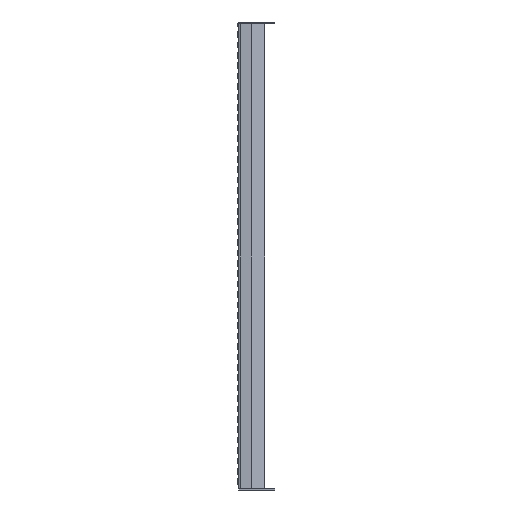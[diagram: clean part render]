
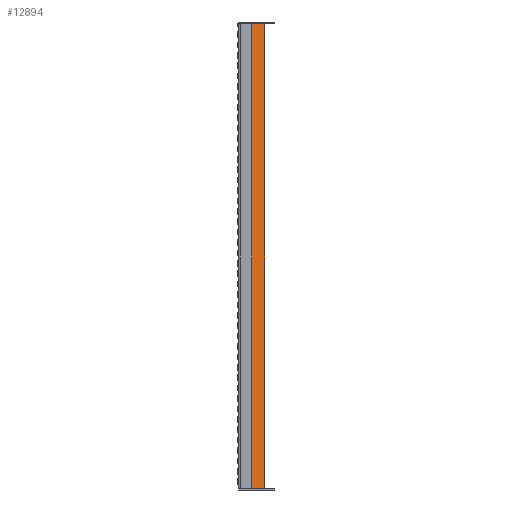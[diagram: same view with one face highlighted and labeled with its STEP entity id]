
A CAD part, left-side view. The second image highlights one B-rep face of the part: STEP entity #12894.
In plain terms, the highlighted planar face has unit normal (-0.94, -0.342, 0).
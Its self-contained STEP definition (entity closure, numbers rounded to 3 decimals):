
#1899=FACE_OUTER_BOUND('',#2936,.T.);
#2936=EDGE_LOOP('',(#11037,#11038,#11039,#11040));
#3891=LINE('',#24384,#5095);
#3910=LINE('',#24431,#5114);
#3912=LINE('',#24437,#5116);
#3916=LINE('',#24444,#5120);
#5095=VECTOR('',#17255,10.);
#5114=VECTOR('',#17298,10.);
#5116=VECTOR('',#17304,10.);
#5120=VECTOR('',#17312,10.);
#6408=VERTEX_POINT('',#24381);
#6409=VERTEX_POINT('',#24383);
#6425=VERTEX_POINT('',#24430);
#6427=VERTEX_POINT('',#24436);
#7980=EDGE_CURVE('',#6409,#6408,#3891,.T.);
#8004=EDGE_CURVE('',#6408,#6425,#3910,.T.);
#8007=EDGE_CURVE('',#6427,#6409,#3912,.T.);
#8011=EDGE_CURVE('',#6425,#6427,#3916,.T.);
#11037=ORIENTED_EDGE('',*,*,#8004,.T.);
#11038=ORIENTED_EDGE('',*,*,#8011,.T.);
#11039=ORIENTED_EDGE('',*,*,#8007,.T.);
#11040=ORIENTED_EDGE('',*,*,#7980,.T.);
#12045=PLANE('',#14234);
#12894=ADVANCED_FACE('',(#1899),#12045,.T.);
#14234=AXIS2_PLACEMENT_3D('',#24443,#17310,#17311);
#17255=DIRECTION('',(-0.342,0.94,0.));
#17298=DIRECTION('',(0.,0.,-1.));
#17304=DIRECTION('',(0.,0.,1.));
#17310=DIRECTION('center_axis',(-0.94,-0.342,0.));
#17311=DIRECTION('ref_axis',(0.,0.,1.));
#17312=DIRECTION('',(0.342,-0.94,0.));
#24381=CARTESIAN_POINT('',(0.196,-25.539,894.));
#24383=CARTESIAN_POINT('',(9.099,-50.,894.));
#24384=CARTESIAN_POINT('',(0.,-25.,894.));
#24430=CARTESIAN_POINT('',(0.196,-25.539,0.));
#24431=CARTESIAN_POINT('',(0.196,-25.539,0.));
#24436=CARTESIAN_POINT('',(9.099,-50.,0.));
#24437=CARTESIAN_POINT('',(9.099,-50.,0.));
#24443=CARTESIAN_POINT('Origin',(9.099,-50.,0.));
#24444=CARTESIAN_POINT('',(0.,-25.,0.));
